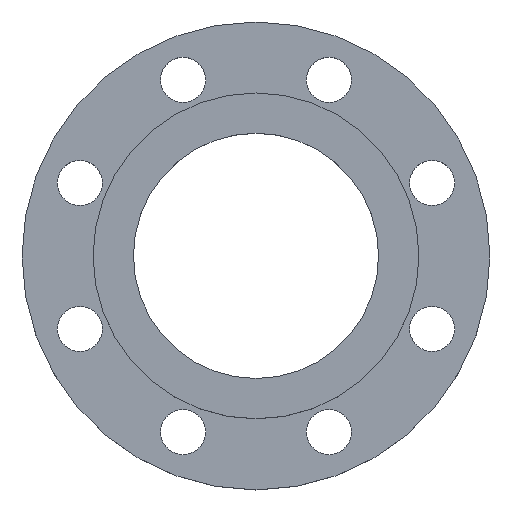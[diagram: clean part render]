
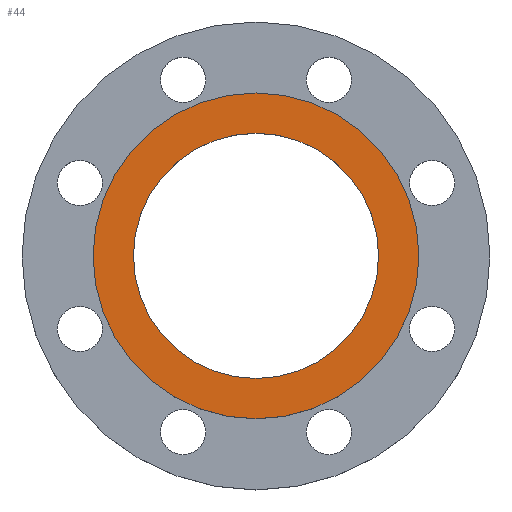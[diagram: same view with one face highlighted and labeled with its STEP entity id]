
A CAD part, top view. The second image highlights one B-rep face of the part: STEP entity #44.
In plain terms, the highlighted planar face has unit normal (0, 0, 1).
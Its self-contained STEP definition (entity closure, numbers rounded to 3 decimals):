
#8 = EDGE_CURVE ( 'NONE', #999, #754, #882, .T. ) ;
#43 = FACE_OUTER_BOUND ( 'NONE', #307, .T. ) ;
#44 = ADVANCED_FACE ( 'NONE', ( #43, #347 ), #673, .F. ) ;
#88 = CARTESIAN_POINT ( 'NONE',  ( 0., 0., 22. ) ) ;
#94 = CARTESIAN_POINT ( 'NONE',  ( 0., 0., 22. ) ) ;
#105 = CARTESIAN_POINT ( 'NONE',  ( -70.75, 0., 22. ) ) ;
#167 = CARTESIAN_POINT ( 'NONE',  ( -94., 0., 22. ) ) ;
#182 = DIRECTION ( 'NONE',  ( -1., 0., 0. ) ) ;
#191 = ORIENTED_EDGE ( 'NONE', *, *, #422, .T. ) ;
#235 = CARTESIAN_POINT ( 'NONE',  ( 0., 0., 22. ) ) ;
#256 = CARTESIAN_POINT ( 'NONE',  ( 70.75, 0., 22. ) ) ;
#271 = DIRECTION ( 'NONE',  ( 0., 0., -1. ) ) ;
#283 = AXIS2_PLACEMENT_3D ( 'NONE', #88, #396, #726 ) ;
#288 = CIRCLE ( 'NONE', #419, 94. ) ;
#305 = CIRCLE ( 'NONE', #902, 70.75 ) ;
#307 = EDGE_LOOP ( 'NONE', ( #583, #448 ) ) ;
#347 = FACE_BOUND ( 'NONE', #802, .T. ) ;
#390 = CIRCLE ( 'NONE', #979, 70.75 ) ;
#392 = EDGE_CURVE ( 'NONE', #462, #599, #305, .T. ) ;
#396 = DIRECTION ( 'NONE',  ( 0., 0., -1. ) ) ;
#404 = DIRECTION ( 'NONE',  ( 0., 0., -1. ) ) ;
#419 = AXIS2_PLACEMENT_3D ( 'NONE', #577, #911, #182 ) ;
#422 = EDGE_CURVE ( 'NONE', #599, #462, #390, .T. ) ;
#448 = ORIENTED_EDGE ( 'NONE', *, *, #466, .F. ) ;
#462 = VERTEX_POINT ( 'NONE', #256 ) ;
#466 = EDGE_CURVE ( 'NONE', #754, #999, #288, .T. ) ;
#467 = ORIENTED_EDGE ( 'NONE', *, *, #392, .T. ) ;
#491 = CARTESIAN_POINT ( 'NONE',  ( 94., 0., 22. ) ) ;
#558 = DIRECTION ( 'NONE',  ( 0., 0., -1. ) ) ;
#577 = CARTESIAN_POINT ( 'NONE',  ( 0., 0., 22. ) ) ;
#583 = ORIENTED_EDGE ( 'NONE', *, *, #8, .F. ) ;
#591 = DIRECTION ( 'NONE',  ( -1., 0., 0. ) ) ;
#599 = VERTEX_POINT ( 'NONE', #105 ) ;
#653 = AXIS2_PLACEMENT_3D ( 'NONE', #997, #271, #591 ) ;
#673 = PLANE ( 'NONE',  #653 ) ;
#726 = DIRECTION ( 'NONE',  ( -1., 0., 0. ) ) ;
#734 = DIRECTION ( 'NONE',  ( -1., 0., 0. ) ) ;
#754 = VERTEX_POINT ( 'NONE', #491 ) ;
#802 = EDGE_LOOP ( 'NONE', ( #191, #467 ) ) ;
#882 = CIRCLE ( 'NONE', #283, 94. ) ;
#887 = DIRECTION ( 'NONE',  ( -1., 0., 0. ) ) ;
#902 = AXIS2_PLACEMENT_3D ( 'NONE', #235, #558, #887 ) ;
#911 = DIRECTION ( 'NONE',  ( 0., 0., -1. ) ) ;
#979 = AXIS2_PLACEMENT_3D ( 'NONE', #94, #404, #734 ) ;
#997 = CARTESIAN_POINT ( 'NONE',  ( 70.75, 0., 22. ) ) ;
#999 = VERTEX_POINT ( 'NONE', #167 ) ;
